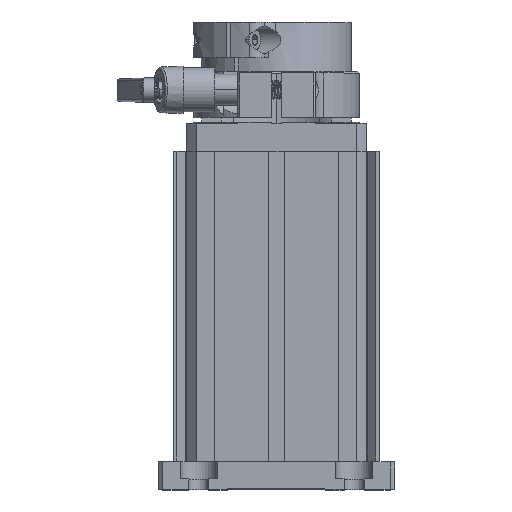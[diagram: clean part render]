
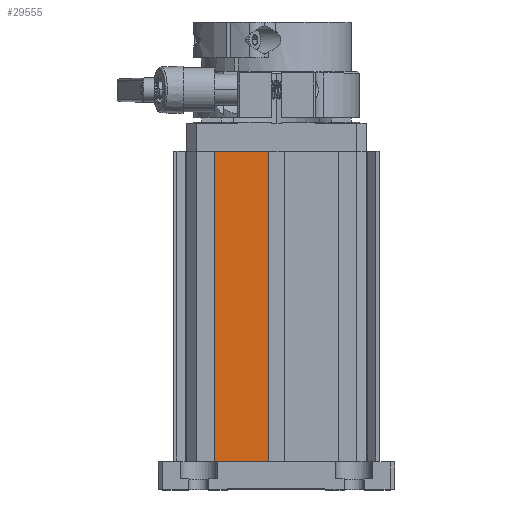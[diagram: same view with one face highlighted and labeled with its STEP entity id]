
A CAD part, top view. The second image highlights one B-rep face of the part: STEP entity #29555.
In plain terms, the highlighted planar face has unit normal (0, 0, 1) as drawn and (-1, 0, 0) by its records, which use the part's own axes.
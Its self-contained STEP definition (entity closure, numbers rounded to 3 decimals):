
#12020=DIRECTION('',(0.,1.,0.));
#12021=VECTOR('',#12020,17.463);
#12022=CARTESIAN_POINT('',(-54.711,74.19,
44.678));
#12023=LINE('',#12022,#12021);
#16288=DIRECTION('',(0.,0.,1.));
#16289=VECTOR('',#16288,100.);
#16290=CARTESIAN_POINT('',(-54.711,74.19,
44.678));
#16291=LINE('',#16290,#16289);
#16292=DIRECTION('',(0.,0.,-1.));
#16293=VECTOR('',#16292,100.);
#16294=CARTESIAN_POINT('',(-54.711,91.652,
144.678));
#16295=LINE('',#16294,#16293);
#16296=DIRECTION('',(0.,1.,0.));
#16297=VECTOR('',#16296,17.463);
#16298=CARTESIAN_POINT('',(-54.711,74.19,
144.678));
#16299=LINE('',#16298,#16297);
#16494=CARTESIAN_POINT('',(-54.711,74.19,
44.678));
#16495=CARTESIAN_POINT('',(-54.711,91.652,
44.678));
#16496=VERTEX_POINT('',#16494);
#16497=VERTEX_POINT('',#16495);
#16526=CARTESIAN_POINT('',(-54.711,91.652,
144.678));
#16527=VERTEX_POINT('',#16526);
#16642=CARTESIAN_POINT('',(-54.711,74.19,
144.678));
#16643=VERTEX_POINT('',#16642);
#29543=CARTESIAN_POINT('',(-54.711,91.652,
44.678));
#29544=DIRECTION('',(-1.,0.,0.));
#29545=DIRECTION('',(0.,-1.,0.));
#29546=AXIS2_PLACEMENT_3D('',#29543,#29544,#29545);
#29547=PLANE('',#29546);
#29549=ORIENTED_EDGE('',*,*,#29548,.F.);
#29550=ORIENTED_EDGE('',*,*,#23273,.T.);
#29551=ORIENTED_EDGE('',*,*,#29536,.F.);
#29552=ORIENTED_EDGE('',*,*,#17325,.F.);
#29553=EDGE_LOOP('',(#29549,#29550,#29551,#29552));
#29554=FACE_OUTER_BOUND('',#29553,.F.);
#29555=ADVANCED_FACE('',(#29554),#29547,.T.);
#17325=EDGE_CURVE('',#16643,#16527,#16299,.T.);
#23273=EDGE_CURVE('',#16496,#16497,#12023,.T.);
#29536=EDGE_CURVE('',#16527,#16497,#16295,.T.);
#29548=EDGE_CURVE('',#16496,#16643,#16291,.T.);
